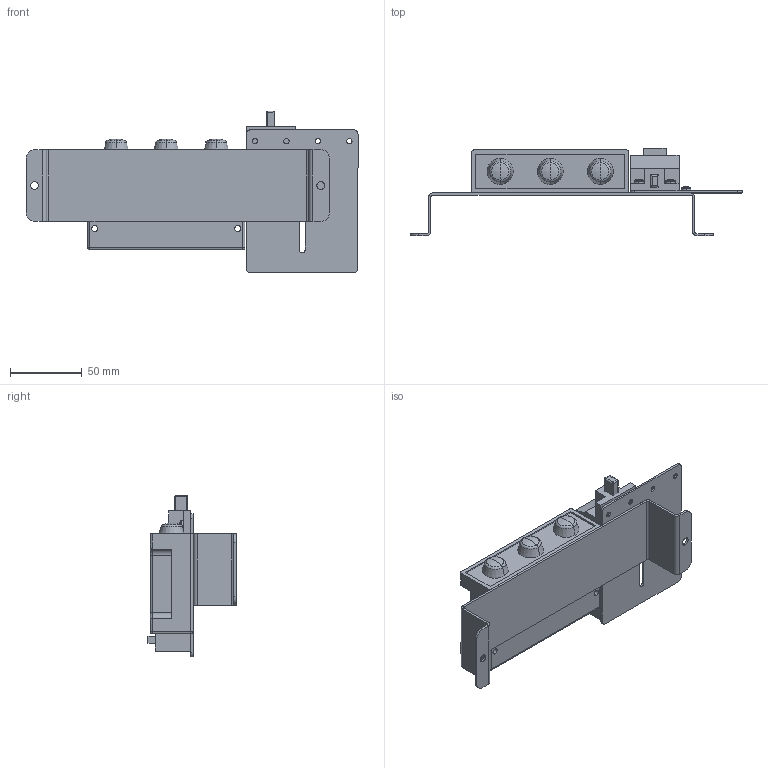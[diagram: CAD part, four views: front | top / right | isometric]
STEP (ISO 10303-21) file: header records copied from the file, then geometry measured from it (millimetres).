
FILE_DESCRIPTION (( 'STEP AP214' ), '1' );
FILE_NAME ('050ASL3.STEP', '2019-08-16T16:18:58', ( '' ), ( '' ), 'SwSTEP 2.0', 'SolidWorks 2013', '' );
FILE_SCHEMA (( 'AUTOMOTIVE_DESIGN' ));
Length unit declared in the file: millimetre
Products named in the file (6): D - 050DSL; D - 050FC3C Finecorsa FC; D - 131001 Staffa sostegno DSL; 050ASL3; Testa Vite M4; D - 131011 Staffa a slitta 2 fissaggi
Assembly tree (8 placements, depth 2):
  050ASL3
    D - 131001 Staffa sostegno DSL
    D - 131011 Staffa a slitta 2 fissaggi
    D - 050FC3C Finecorsa FC
    D - 050DSL
    Testa Vite M4  x4
Bounding box: 232 x 61.5 x 112.97 mm (x, y, z)
Volume: 323406.8 mm3; surface area: 98049.5 mm2
Topology: 12 solids, 12 shells, 347 faces, 889 edges, 566 vertices
Faces by surface type: plane 156, cylinder 87, cone 52, sphere 24, torus 24, bspline 4
Entity records: 9422 total; most frequent: CARTESIAN_POINT 1452, DIRECTION 1319, ORIENTED_EDGE 1198, EDGE_CURVE 599, AXIS2_PLACEMENT_3D 499, VERTEX_POINT 380, VECTOR 321, LINE 321
